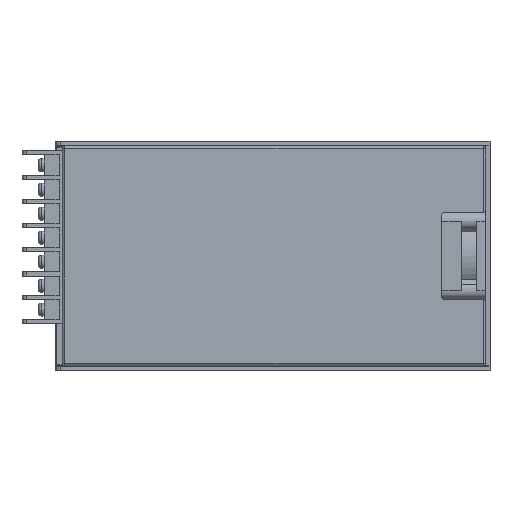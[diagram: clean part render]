
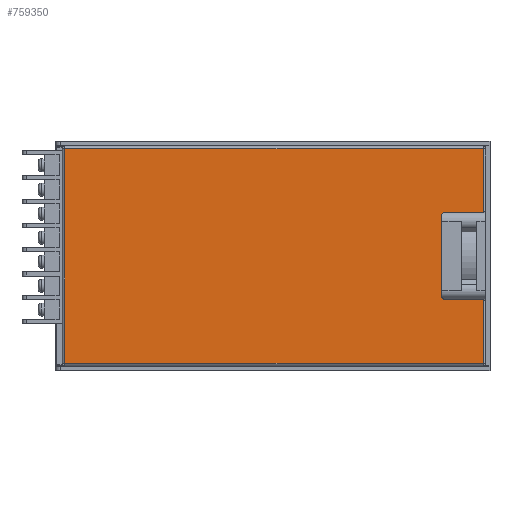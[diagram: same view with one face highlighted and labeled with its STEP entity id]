
A CAD part, top view. The second image highlights one B-rep face of the part: STEP entity #759350.
In plain terms, the highlighted planar face has unit normal (0, 0, 1).
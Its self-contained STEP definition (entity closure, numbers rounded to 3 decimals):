
#734700=CARTESIAN_POINT('',(259.978,164.058,41.));
#734710=VERTEX_POINT('',#734700);
#736820=CARTESIAN_POINT('',(259.978,65.658,41.));
#736830=VERTEX_POINT('',#736820);
#737730=CARTESIAN_POINT('',(68.178,65.658,41.));
#737740=VERTEX_POINT('',#737730);
#738460=CARTESIAN_POINT('',(240.728,101.647,41.
));
#738470=DIRECTION('',(0.,-1.,0.));
#738480=VECTOR('',#738470,1.);
#738490=LINE('',#738460,#738480);
#738500=CARTESIAN_POINT('',(240.728,133.158,41.));
#738510=VERTEX_POINT('',#738500);
#738520=CARTESIAN_POINT('',(240.728,96.558,41.));
#738530=VERTEX_POINT('',#738520);
#738540=EDGE_CURVE('',#738510,#738530,#738490,.T.);
#738990=CARTESIAN_POINT('',(68.178,164.058,41.));
#739000=VERTEX_POINT('',#738990);
#739910=CARTESIAN_POINT('',(259.978,101.647,41.
));
#739920=DIRECTION('',(0.,-1.,0.));
#739930=VECTOR('',#739920,1.);
#739940=LINE('',#739910,#739930);
#739950=CARTESIAN_POINT('',(259.978,94.608,41.));
#739960=VERTEX_POINT('',#739950);
#739970=EDGE_CURVE('',#739960,#736830,#739940,.T.);
#740100=CARTESIAN_POINT('',(259.978,135.108,41.));
#740110=VERTEX_POINT('',#740100);
#740120=EDGE_CURVE('',#734710,#740110,#739940,.T.);
#740690=CARTESIAN_POINT('',(68.178,101.647,41.)
);
#740700=DIRECTION('',(0.,1.,0.));
#740710=VECTOR('',#740700,1.);
#740720=LINE('',#740690,#740710);
#740730=EDGE_CURVE('',#737740,#739000,#740720,.T.);
#744480=CARTESIAN_POINT('',(242.228,95.058,41.));
#744490=VERTEX_POINT('',#744480);
#744520=CARTESIAN_POINT('',(242.228,96.558,41.));
#744530=DIRECTION('',(0.,0.,-1.));
#744540=DIRECTION('',(-1.,0.,0.));
#744550=AXIS2_PLACEMENT_3D('',#744520,#744530,#744540);
#744560=CIRCLE('',#744550,1.5);
#744570=EDGE_CURVE('',#744490,#738530,#744560,.T.);
#744880=CARTESIAN_POINT('',(259.978,134.958,41.));
#744890=VERTEX_POINT('',#744880);
#744920=CARTESIAN_POINT('',(259.978,101.647,41.
));
#744930=DIRECTION('',(0.,-1.,0.));
#744940=VECTOR('',#744930,1.);
#744950=LINE('',#744920,#744940);
#744960=EDGE_CURVE('',#740110,#744890,#744950,.T.);
#746880=CARTESIAN_POINT('',(242.228,134.658,41.));
#746890=VERTEX_POINT('',#746880);
#746920=CARTESIAN_POINT('',(108.748,134.658,41.
));
#746930=DIRECTION('',(-1.,0.,0.));
#746940=VECTOR('',#746930,1.);
#746950=LINE('',#746920,#746940);
#746960=CARTESIAN_POINT('',(259.678,134.658,41.));
#746970=VERTEX_POINT('',#746960);
#746980=EDGE_CURVE('',#746970,#746890,#746950,.T.);
#747140=CARTESIAN_POINT('',(108.748,95.058,41.)
);
#747150=DIRECTION('',(1.,0.,0.));
#747160=VECTOR('',#747150,1.);
#747170=LINE('',#747140,#747160);
#747180=CARTESIAN_POINT('',(259.678,95.058,41.));
#747190=VERTEX_POINT('',#747180);
#747200=EDGE_CURVE('',#744490,#747190,#747170,.T.);
#748050=CARTESIAN_POINT('',(259.978,94.758,41.));
#748060=VERTEX_POINT('',#748050);
#748180=CARTESIAN_POINT('',(259.978,101.647,41.
));
#748190=DIRECTION('',(0.,-1.,0.));
#748200=VECTOR('',#748190,1.);
#748210=LINE('',#748180,#748200);
#748220=EDGE_CURVE('',#748060,#739960,#748210,.T.);
#748400=CARTESIAN_POINT('',(242.228,133.158,41.));
#748410=DIRECTION('',(0.,0.,-1.));
#748420=DIRECTION('',(-1.,0.,0.));
#748430=AXIS2_PLACEMENT_3D('',#748400,#748410,#748420);
#748440=CIRCLE('',#748430,1.5);
#748450=EDGE_CURVE('',#738510,#746890,#748440,.T.);
#748810=CARTESIAN_POINT('',(259.678,134.958,41.));
#748820=DIRECTION('',(0.,0.,1.));
#748830=DIRECTION('',(1.,0.,0.));
#748840=AXIS2_PLACEMENT_3D('',#748810,#748820,#748830);
#748850=CIRCLE('',#748840,0.3);
#748860=EDGE_CURVE('',#746970,#744890,#748850,.T.);
#749130=CARTESIAN_POINT('',(259.678,94.758,41.));
#749140=DIRECTION('',(0.,0.,-1.));
#749150=DIRECTION('',(-1.,0.,0.));
#749160=AXIS2_PLACEMENT_3D('',#749130,#749140,#749150);
#749170=CIRCLE('',#749160,0.3);
#749180=EDGE_CURVE('',#747190,#748060,#749170,.T.);
#750120=CARTESIAN_POINT('',(108.748,65.658,41.)
);
#750130=DIRECTION('',(-1.,0.,0.));
#750140=VECTOR('',#750130,1.);
#750150=LINE('',#750120,#750140);
#750160=EDGE_CURVE('',#736830,#737740,#750150,.T.);
#759090=CARTESIAN_POINT('',(69.967,165.158,41.));
#759100=DIRECTION('',(0.,0.,1.));
#759110=DIRECTION('',(1.,0.,0.));
#759120=AXIS2_PLACEMENT_3D('',#759090,#759100,#759110);
#759130=PLANE('',#759120);
#759140=ORIENTED_EDGE('',*,*,#744570,.T.);
#759150=ORIENTED_EDGE('',*,*,#747200,.F.);
#759160=ORIENTED_EDGE('',*,*,#749180,.F.);
#759170=ORIENTED_EDGE('',*,*,#748220,.F.);
#759180=ORIENTED_EDGE('',*,*,#739970,.F.);
#759190=ORIENTED_EDGE('',*,*,#750160,.F.);
#759200=ORIENTED_EDGE('',*,*,#740730,.F.);
#759210=CARTESIAN_POINT('',(108.748,164.058,41.
));
#759220=DIRECTION('',(1.,0.,0.));
#759230=VECTOR('',#759220,1.);
#759240=LINE('',#759210,#759230);
#759250=EDGE_CURVE('',#739000,#734710,#759240,.T.);
#759260=ORIENTED_EDGE('',*,*,#759250,.F.);
#759270=ORIENTED_EDGE('',*,*,#740120,.F.);
#759280=ORIENTED_EDGE('',*,*,#744960,.F.);
#759290=ORIENTED_EDGE('',*,*,#748860,.T.);
#759300=ORIENTED_EDGE('',*,*,#746980,.F.);
#759310=ORIENTED_EDGE('',*,*,#748450,.T.);
#759320=ORIENTED_EDGE('',*,*,#738540,.F.);
#759330=EDGE_LOOP('',(#759320,#759310,#759300,#759290,#759280,#759270,
#759260,#759200,#759190,#759180,#759170,#759160,#759150,#759140));
#759340=FACE_OUTER_BOUND('',#759330,.T.);
#759350=ADVANCED_FACE('',(#759340),#759130,.T.);
